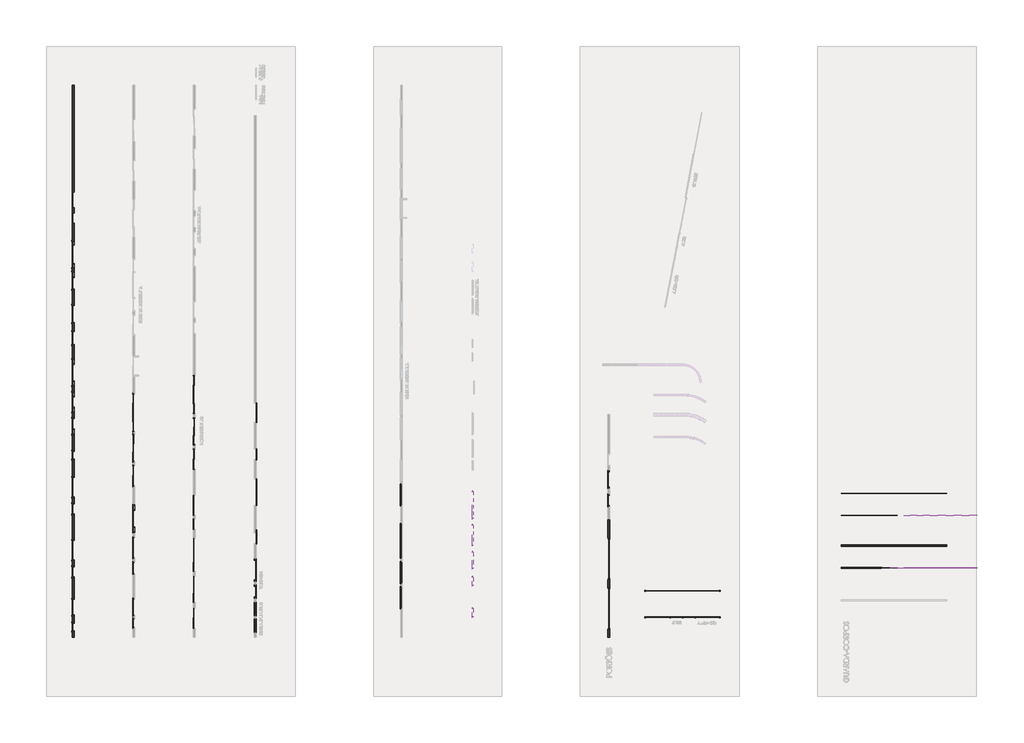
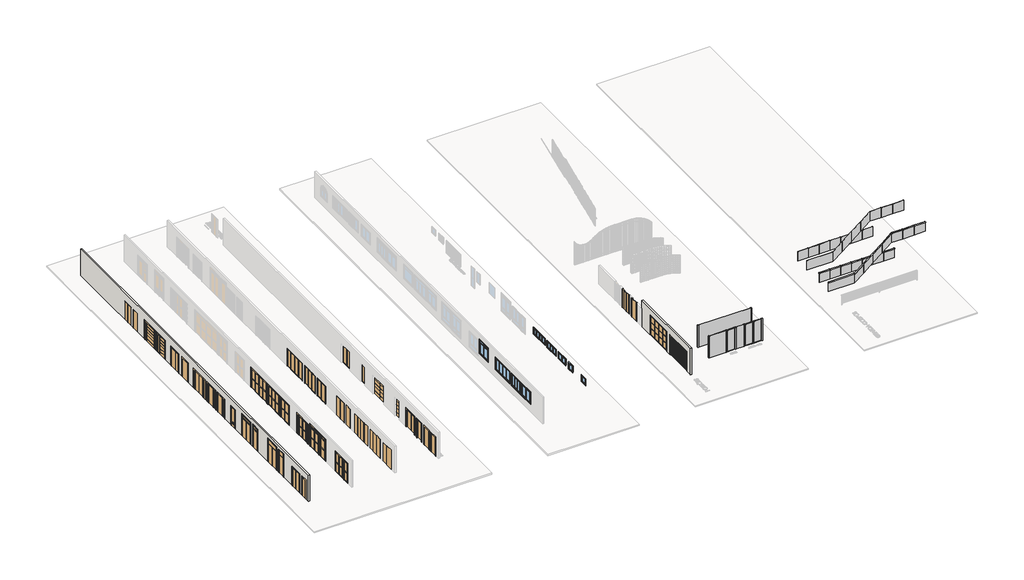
# One storey, part 1 of 15: 44 doors, 35 plates, 22 members, 9 windows, 2 walls.
"""IFC4 building model written with IfcOpenShell, lengths in millimetres."""

from ifc_helpers import new_model, si_unit, frame, origin, place, context, project, spatial, polyline, outline, extrude, faceted_brep, transform, mapped, element, save
from components import door_8916e6e4, door_dd1b2f25, door_b5212ac3, door_31_5_80_31_5_x_210_066ea2de, door_100_x_210_65537fdf, door_120_x_210_413f200e, door_120_x_210_62fe1f09, door_120_x_210_efae11d8, door_120_x_220_21e3b68e, door_130_x_210_5c5bd6b0, door_150_x_200_1a9ccb07, door_150_x_210_92496eac, door_150_x_210_59f08e28, door_150_x_220_6ddc8072, door_150_x_210_0a50c08e, door_150_x_210_8e785332, door_150_x_210_260_12780f67, door_150_x_220_60480f0c, door_150_x_220_4ef38597, door_200_x_200_0e187a38, door_200_x_220_291763b9, door_200_x_210_965aee03, door_200_x_220_3ca59432, door_200_x_220_cca4099e, door_280_x_200_146a4e26, door_280_x_220_3c5e79f3, door_300_x_220_c7f21ab3, door_300_x_220_fe7283cd, door_60_x_210_6dff45ca, door_60_x_210_264a725e, door_60_x_220_c5cafb2c, door_80_120_x_210_19d05934, door_80_x_210_14041a6c, door_80_x_210_25f8f10c, door_80_x_210_45d6cdc8, door_80_x_210_69a38d2f, door_80_x_210_260_7b3409cb, door_80_x_220_439348a2, door_80_x_210_7cd56997, door_80_x_210_30b18d09, door_80_x_210_166cd71a, door_80_x_220_cc33ead6, door_90_130_x_210_82204c14, door_90_x_210_280f9766, circular_mullion_50mm_radius_58e05b09, circular_mullion_50mm_radius_f5e74aa9, circular_mullion_50mm_radius_b58c95c8, circular_mullion_50mm_radius_fc560f1a, circular_mullion_50mm_radius_da544194, circular_mullion_50mm_radius_106980f6, circular_mullion_50mm_radius_fce2640b, rectangular_mullion_montante_muro_de_vidro_10_x_10_cm_6b0fb468, rectangular_mullion_montante_muro_de_vidro_10_x_10_cm_6746ef01, plate_01_36f4f220, plate_01_4595e1b0, system_panel_1b4e1b44, system_panel_bc985cdc, system_panel_a2d2ccff, system_panel_3126d55a, system_panel_bab866c8, system_panel_7f4bd75d, system_panel_ac3673e6, system_panel_374318f6, system_panel_muro_de_vidro_16_mm_4851632e, system_panel_muro_de_vidro_16_mm_785279bf, system_panel_muro_de_vidro_16_mm_a46e8366, window_120_x_60_a7597752, window_120_x_60_1fe928af, window_150_x_120_82909caf, window_150_x_120_26587e5e, window_150_x_120_0872acb2, window_200_x_60_8f1f4637, window_250_x_120_b225a731, window_60_x_60_208c0b0b

model = new_model("IFC4")

# Units and contexts
model_context = context("Model", 3, world=origin())
ifc_project = project(units=[si_unit("LENGTHUNIT", "METRE", prefix="MILLI")], contexts=[model_context])

# Site, building, storey
site = spatial("IfcSite", under=ifc_project)
building = spatial("IfcBuilding", under=site)
storey = spatial("IfcBuildingStorey", under=building, Name="TÉRREO", Elevation=0.0)

# Doors
placement = place(None, origin())
door_shape = door_8916e6e4(model_context)
element("IfcDoor", 1, ObjectType="PORTA DE ABRIR - 2 FOLHAS + LUZES LATERAIS - 2 FOLHAS : (31,5) 130 (31,5) X 210", at=placement, inside=storey, context=model_context, shape_type="MappedRepresentation", body=[
    mapped(door_shape, transform((-783.6838948, 7848.2494443, 0.0), x_axis=(0.0, -1.0, 0.0), y_axis=(1.0, 0.0, 0.0), z_axis=(0.0, 0.0, 1.0))),
])
door_2_shape = door_dd1b2f25(model_context)
element("IfcDoor", 2, ObjectType="PORTA PIVOTANTE - 1 FOLHA + LUZES LATERAIS - 2 FOLHAS : (21,5) 150 (21,5) X 210", at=placement, inside=storey, context=model_context, shape_type="MappedRepresentation", body=[
    mapped(door_2_shape, transform((-783.6838948, 16838.5763628, 0.0), x_axis=(0.0, 1.0, 0.0), y_axis=(-1.0, 0.0, 0.0), z_axis=(0.0, 0.0, 1.0))),
])
door_3_shape = door_b5212ac3(model_context)
element("IfcDoor", 3, ObjectType="PORTA DE VIDRO COM ESQUADRIA DE ABRIR - 2 FOLHAS + LUZES LATERAIS - 2 FOLHAS : (31,5) 130 (31,5) X 220", at=placement, inside=storey, context=model_context, shape_type="MappedRepresentation", body=[
    mapped(door_3_shape, transform((3853.8161052, -3314.9603765, 0.0), x_axis=(0.0, -1.0, 0.0), y_axis=(1.0, 0.0, 0.0), z_axis=(0.0, 0.0, 1.0))),
])
door_31_5_80_31_5_x_210_shape = door_31_5_80_31_5_x_210_066ea2de(model_context)
element("IfcDoor", 4, ObjectType="PORTA DE ABRIR - 1 FOLHA + LUZES LATERAIS - 2 FOLHAS : (31,5) 80 (31,5) X 210", at=placement, inside=storey, context=model_context, shape_type="MappedRepresentation", body=[
    mapped(door_31_5_80_31_5_x_210_shape, transform((-783.6838948, 5598.2494443, 0.0), x_axis=(0.0, -1.0, 0.0), y_axis=(1.0, 0.0, 0.0), z_axis=(0.0, 0.0, 1.0))),
])
door_100_x_210_shape = door_100_x_210_65537fdf(model_context)
element("IfcDoor", 5, ObjectType="PORTA PIVOTANTE - 1 FOLHA : 100 x 210", at=placement, inside=storey, context=model_context, shape_type="MappedRepresentation", body=[
    mapped(door_100_x_210_shape, transform((-783.6838948, 10383.5763628, 0.0), x_axis=(0.0, 1.0, 0.0), y_axis=(-1.0, 0.0, 0.0), z_axis=(0.0, 0.0, 1.0))),
])
door_120_x_210_shape = door_120_x_210_413f200e(model_context)
element("IfcDoor", 6, ObjectType="PORTA PIVOTANTE SEM BATENTES - 2 FOLHAS : 120 x 210", at=placement, inside=storey, context=model_context, shape_type="MappedRepresentation", body=[
    mapped(door_120_x_210_shape, transform((-783.6838948, 21223.5763628, 0.0), x_axis=(0.0, -1.0, 0.0), y_axis=(1.0, 0.0, 0.0), z_axis=(0.0, 0.0, 1.0))),
])
door_120_x_210_2_shape = door_120_x_210_62fe1f09(model_context)
element("IfcDoor", 7, ObjectType="PORTÃO DE ABRIR - 2 FOLHAS : 120 x 210", at=placement, inside=storey, context=model_context, shape_type="MappedRepresentation", body=[
    mapped(door_120_x_210_2_shape, transform((40169.4407312, -283.3147038, 0.0), x_axis=(0.0, -1.0, 0.0), y_axis=(1.0, 0.0, 0.0), z_axis=(0.0, 0.0, 1.0))),
])
door_120_x_210_3_shape = door_120_x_210_efae11d8(model_context)
element("IfcDoor", 8, ObjectType="PORTA DE ABRIR - 2 FOLHAS : 120 x 210", at=placement, inside=storey, context=model_context, shape_type="MappedRepresentation", body=[
    mapped(door_120_x_210_3_shape, transform((-783.6838948, -10059.9603765, 0.0), x_axis=(0.0, -1.0, 0.0), y_axis=(1.0, 0.0, 0.0), z_axis=(0.0, 0.0, 1.0))),
])
door_120_x_220_shape = door_120_x_220_21e3b68e(model_context)
element("IfcDoor", 9, ObjectType="PORTA DE VIDRO COM ESQUADRIA DE ABRIR - 2 FOLHAS : 120 x 220", at=placement, inside=storey, context=model_context, shape_type="MappedRepresentation", body=[
    mapped(door_120_x_220_shape, transform((3853.8161052, -10174.9603765, 0.0), x_axis=(0.0, -1.0, 0.0), y_axis=(1.0, 0.0, 0.0), z_axis=(0.0, 0.0, 1.0))),
])
door_130_x_210_shape = door_130_x_210_5c5bd6b0(model_context)
element("IfcDoor", 10, ObjectType="PORTA PIVOTANTE - 2 FOLHAS : 130 x 210", at=placement, inside=storey, context=model_context, shape_type="MappedRepresentation", body=[
    mapped(door_130_x_210_shape, transform((-783.6838948, 12243.5763628, 0.0), x_axis=(0.0, 1.0, 0.0), y_axis=(-1.0, 0.0, 0.0), z_axis=(0.0, 0.0, 1.0))),
])
door_150_x_200_shape = door_150_x_200_1a9ccb07(model_context)
element("IfcDoor", 11, ObjectType="PORTA TELADA COM ESQUADRIA DE CORRER - 2 FOLHAS : 150 X 200", at=placement, inside=storey, context=model_context, shape_type="MappedRepresentation", body=[
    mapped(door_150_x_200_shape, transform((8489.3202338, 1278.8167935, 0.0), x_axis=(0.0, -1.0, 0.0), y_axis=(1.0, 0.0, 0.0), z_axis=(0.0, 0.0, 1.0))),
])
door_150_x_210_shape = door_150_x_210_92496eac(model_context)
element("IfcDoor", 12, ObjectType="PORTA DE ABRIR - 2 FOLHAS + BANDEIRA FIXA COM VIDRO - 1 FOLHA : 150 X 210", at=placement, inside=storey, context=model_context, shape_type="MappedRepresentation", body=[
    mapped(door_150_x_210_shape, transform((-783.6838948, -867.3574639, 0.0), x_axis=(0.0, -1.0, 0.0), y_axis=(1.0, 0.0, 0.0), z_axis=(0.0, 0.0, 1.0))),
])
door_150_x_210_2_shape = door_150_x_210_59f08e28(model_context)
element("IfcDoor", 13, ObjectType="PORTA DE VIDRO COM ESQUADRIA DE CORRER - 2 FOLHAS : 150 X 210", at=placement, inside=storey, context=model_context, shape_type="MappedRepresentation", body=[
    mapped(door_150_x_210_2_shape, transform((3851.8202338, 3.2004974, 0.0), x_axis=(0.0, -1.0, 0.0), y_axis=(1.0, 0.0, 0.0), z_axis=(0.0, 0.0, 1.0))),
])
door_150_x_220_shape = door_150_x_220_6ddc8072(model_context)
element("IfcDoor", 14, ObjectType="PORTA DE VIDRO COM ESQUADRIA DE ABRIR - 2 FOLHAS + BANDEIRA FIXA - 1 FOLHA : 150 X 220", at=placement, inside=storey, context=model_context, shape_type="MappedRepresentation", body=[
    mapped(door_150_x_220_shape, transform((3853.8161052, -5539.9603765, 0.0), x_axis=(0.0, -1.0, 0.0), y_axis=(1.0, 0.0, 0.0), z_axis=(0.0, 0.0, 1.0))),
])
door_150_x_210_3_shape = door_150_x_210_0a50c08e(model_context)
element("IfcDoor", 15, ObjectType="PORTA VAI-E-VEM - 2 FOLHAS : 150 x 210", at=placement, inside=storey, context=model_context, shape_type="MappedRepresentation", body=[
    mapped(door_150_x_210_3_shape, transform((13118.1937885, -7364.9603765, 0.0), x_axis=(0.0, 1.0, 0.0), y_axis=(-1.0, 0.0, 0.0), z_axis=(0.0, 0.0, 1.0))),
])
door_150_x_210_4_shape = door_150_x_210_8e785332(model_context)
element("IfcDoor", 16, ObjectType="PORTA DE VIDRO COM ESQUADRIA DE CORRER EM TRILHO LATERAL - 2 FOLHAS : 150 x 210", at=placement, inside=storey, context=model_context, shape_type="MappedRepresentation", body=[
    mapped(door_150_x_210_4_shape, transform((13128.8161052, 4770.0396235, 0.0), x_axis=(0.0, 1.0, 0.0), y_axis=(-1.0, 0.0, 0.0), z_axis=(0.0, 0.0, 1.0))),
])
door_150_x_210_260_shape = door_150_x_210_260_12780f67(model_context)
element("IfcDoor", 17, ObjectType="PORTA DE ABRIR - 2 FOLHAS + BANDEIRA FIXA - 1 FOLHA : 150 x 210 (260)", at=placement, inside=storey, context=model_context, shape_type="MappedRepresentation", body=[
    mapped(door_150_x_210_260_shape, transform((-783.6838948, -5682.4181109, 0.0), x_axis=(0.0, -1.0, 0.0), y_axis=(1.0, 0.0, 0.0), z_axis=(0.0, 0.0, 1.0))),
])
door_150_x_220_2_shape = door_150_x_220_60480f0c(model_context)
element("IfcDoor", 18, ObjectType="PORTA DE VIDRO PIVOTANTE - 2 FOLHAS : 150 x 220", at=placement, inside=storey, context=model_context, shape_type="MappedRepresentation", body=[
    mapped(door_150_x_220_2_shape, transform((8485.6585974, -2409.9603765, 0.0), x_axis=(0.0, 1.0, 0.0), y_axis=(-1.0, 0.0, 0.0), z_axis=(0.0, 0.0, 1.0))),
])
door_150_x_220_3_shape = door_150_x_220_4ef38597(model_context)
element("IfcDoor", 19, ObjectType="PORTA DE VIDRO DE CORRER - 2 FOLHAS : 150 x 220", at=placement, inside=storey, context=model_context, shape_type="MappedRepresentation", body=[
    mapped(door_150_x_220_3_shape, transform((8485.6585974, -10889.9603765, 0.0), x_axis=(0.0, -1.0, 0.0), y_axis=(1.0, 0.0, 0.0), z_axis=(0.0, 0.0, 1.0))),
])
door_200_x_200_shape = door_200_x_200_0e187a38(model_context)
element("IfcDoor", 20, ObjectType="PORTA TELADA COM ESQUADRIA DE CORRER - 3 FOLHAS : 200 X 200", at=placement, inside=storey, context=model_context, shape_type="MappedRepresentation", body=[
    mapped(door_200_x_200_shape, transform((8491.3161052, 3343.5378035, 0.0), x_axis=(0.0, -1.0, 0.0), y_axis=(1.0, 0.0, 0.0), z_axis=(0.0, 0.0, 1.0))),
])
door_200_x_220_shape = door_200_x_220_291763b9(model_context)
element("IfcDoor", 21, ObjectType="PORTA DE VIDRO COM ESQUADRIA DE CORRER - 3 FOLHAS : 200 X 220", at=placement, inside=storey, context=model_context, shape_type="MappedRepresentation", body=[
    mapped(door_200_x_220_shape, transform((3853.8161052, 2077.9215075, 0.0), x_axis=(0.0, -1.0, 0.0), y_axis=(1.0, 0.0, 0.0), z_axis=(0.0, 0.0, 1.0))),
])
door_200_x_210_shape = door_200_x_210_965aee03(model_context)
element("IfcDoor", 22, ObjectType="PORTA DE CORRER EM TRILHO LATERAL - 2 FOLHAS : 200 x 210", at=placement, inside=storey, context=model_context, shape_type="MappedRepresentation", body=[
    mapped(door_200_x_210_shape, transform((13128.8161052, -1319.9603765, 0.0), x_axis=(0.0, 1.0, 0.0), y_axis=(-1.0, 0.0, 0.0), z_axis=(0.0, 0.0, 1.0))),
])
door_200_x_220_2_shape = door_200_x_220_3ca59432(model_context)
element("IfcDoor", 23, ObjectType="PORTA DE VIDRO DE CORRER - 3 FOLHAS : 200 x 220", at=placement, inside=storey, context=model_context, shape_type="MappedRepresentation", body=[
    mapped(door_200_x_220_2_shape, transform((8485.6585974, -8659.9603765, 0.0), x_axis=(0.0, -1.0, 0.0), y_axis=(1.0, 0.0, 0.0), z_axis=(0.0, 0.0, 1.0))),
])
door_200_x_220_3_shape = door_200_x_220_cca4099e(model_context)
element("IfcDoor", 24, ObjectType="PORTA DE VIDRO DE CORRER - 4 FOLHAS : 200 x 220", at=placement, inside=storey, context=model_context, shape_type="MappedRepresentation", body=[
    mapped(door_200_x_220_3_shape, transform((8485.6585974, -6009.9603765, 0.0), x_axis=(0.0, -1.0, 0.0), y_axis=(1.0, 0.0, 0.0), z_axis=(0.0, 0.0, 1.0))),
])
door_280_x_200_shape = door_280_x_200_146a4e26(model_context)
element("IfcDoor", 25, ObjectType="PORTA TELADA COM ESQUADRIA DE CORRER - 4 FOLHAS : 280 x 200", at=placement, inside=storey, context=model_context, shape_type="MappedRepresentation", body=[
    mapped(door_280_x_200_shape, transform((8483.3478121, 6300.6559196, 0.0), x_axis=(0.0, -1.0, 0.0), y_axis=(1.0, 0.0, 0.0), z_axis=(0.0, 0.0, 1.0))),
])
door_280_x_220_shape = door_280_x_220_3c5e79f3(model_context)
element("IfcDoor", 26, ObjectType="PORTA DE VIDRO COM ESQUADRIA DE CORRER - 4 FOLHAS : 280 x 220", at=placement, inside=storey, context=model_context, shape_type="MappedRepresentation", body=[
    mapped(door_280_x_220_shape, transform((3845.8478121, 4915.0396235, 0.0), x_axis=(0.0, -1.0, 0.0), y_axis=(1.0, 0.0, 0.0), z_axis=(0.0, 0.0, 1.0))),
])
door_300_x_220_shape = door_300_x_220_c7f21ab3(model_context)
element("IfcDoor", 27, ObjectType="PORTÃO BASCULANTE - 1 FOLHA : 300 x 220", at=placement, inside=storey, context=model_context, shape_type="MappedRepresentation", body=[
    mapped(door_300_x_220_shape, transform((40169.4407312, -6339.9603765, 0.0), x_axis=(0.0, -1.0, 0.0), y_axis=(1.0, 0.0, 0.0), z_axis=(0.0, 0.0, 1.0))),
])
door_300_x_220_2_shape = door_300_x_220_fe7283cd(model_context)
element("IfcDoor", 28, ObjectType="PORTÃO BASCULANTE COM BARRAS VERTICAIS : 300 x 220", at=placement, inside=storey, context=model_context, shape_type="MappedRepresentation", body=[
    mapped(door_300_x_220_2_shape, transform((40169.4407312, -10139.9603765, 0.0), x_axis=(0.0, -1.0, 0.0), y_axis=(1.0, 0.0, 0.0), z_axis=(0.0, 0.0, 1.0))),
])
door_60_x_210_shape = door_60_x_210_6dff45ca(model_context)
element("IfcDoor", 29, ObjectType="PORTA DE ABRIR - 1 FOLHA : 60 x 210", at=placement, inside=storey, context=model_context, shape_type="MappedRepresentation", body=[
    mapped(door_60_x_210_shape, transform((-783.6838948, -11539.9603765, 0.0), x_axis=(0.0, -1.0, 0.0), y_axis=(1.0, 0.0, 0.0), z_axis=(0.0, 0.0, 1.0))),
])
door_60_x_210_2_shape = door_60_x_210_264a725e(model_context)
element("IfcDoor", 30, ObjectType="PORTA DE ABRIR COM GRELHA - 1 FOLHA : 60 x 210", at=placement, inside=storey, context=model_context, shape_type="MappedRepresentation", body=[
    mapped(door_60_x_210_2_shape, transform((-783.6838948, 1603.5763628, 0.0), x_axis=(0.0, -1.0, 0.0), y_axis=(1.0, 0.0, 0.0), z_axis=(0.0, 0.0, 1.0))),
])
door_60_x_220_shape = door_60_x_220_c5cafb2c(model_context)
element("IfcDoor", 31, ObjectType="PORTA DE VIDRO COM ESQUADRIA DE ABRIR - 1 FOLHA : 60 x 220", at=placement, inside=storey, context=model_context, shape_type="MappedRepresentation", body=[
    mapped(door_60_x_220_shape, transform((3853.8161052, -11289.9603765, 0.0), x_axis=(0.0, -1.0, 0.0), y_axis=(1.0, 0.0, 0.0), z_axis=(0.0, 0.0, 1.0))),
])
door_80_120_x_210_shape = door_80_120_x_210_19d05934(model_context)
element("IfcDoor", 32, ObjectType="PORTA DE ABRIR - 1 FOLHA + LUZ LATERAL - 1 FOLHA : 80 (120) X 210", at=placement, inside=storey, context=model_context, shape_type="MappedRepresentation", body=[
    mapped(door_80_120_x_210_shape, transform((-783.6838948, 3703.2494443, 0.0), x_axis=(0.0, -1.0, 0.0), y_axis=(1.0, 0.0, 0.0), z_axis=(0.0, 0.0, 1.0))),
])
door_80_x_210_shape = door_80_x_210_14041a6c(model_context)
element("IfcDoor", 33, ObjectType="PORTA DE ABRIR DUPLA - 2 FOLHAS : 80 X 210", at=placement, inside=storey, context=model_context, shape_type="MappedRepresentation", body=[
    mapped(door_80_x_210_shape, transform((13128.8161052, -11599.9603765, 0.0), x_axis=(0.0, 1.0, 0.0), y_axis=(-1.0, 0.0, 0.0), z_axis=(0.0, 0.0, 1.0))),
])
door_80_x_210_2_shape = door_80_x_210_25f8f10c(model_context)
element("IfcDoor", 34, ObjectType="PORTA DE ABRIR DUPLA COM SENTIDOS OPOSTOS- 2 FOLHAS : 80 X 210", at=placement, inside=storey, context=model_context, shape_type="MappedRepresentation", body=[
    mapped(door_80_x_210_2_shape, transform((13128.8161052, -10179.9603765, 0.0), x_axis=(0.0, -1.0, 0.0), y_axis=(1.0, 0.0, 0.0), z_axis=(0.0, 0.0, 1.0))),
])
door_80_x_210_3_shape = door_80_x_210_45d6cdc8(model_context)
element("IfcDoor", 35, ObjectType="PORTÃO DE ABRIR - 1 FOLHA : 80 X 210", at=placement, inside=storey, context=model_context, shape_type="MappedRepresentation", body=[
    mapped(door_80_x_210_3_shape, transform((40169.4407312, -1893.3147038, 0.0), x_axis=(0.0, -1.0, 0.0), y_axis=(1.0, 0.0, 0.0), z_axis=(0.0, 0.0, 1.0))),
])
door_80_x_210_4_shape = door_80_x_210_69a38d2f(model_context)
element("IfcDoor", 36, ObjectType="PORTA DE ABRIR - 1 FOLHA + BANDEIRA FIXA COM VIDRO - 1 FOLHA : 80 X 210", at=placement, inside=storey, context=model_context, shape_type="MappedRepresentation", body=[
    mapped(door_80_x_210_4_shape, transform((-783.6838948, -2517.3574639, 0.0), x_axis=(0.0, -1.0, 0.0), y_axis=(1.0, 0.0, 0.0), z_axis=(0.0, 0.0, 1.0))),
])
door_80_x_210_260_shape = door_80_x_210_260_7b3409cb(model_context)
element("IfcDoor", 37, ObjectType="PORTA DE ABRIR - 1 FOLHA + BANDEIRA FIXA - 1 FOLHA : 80 X 210 (260)", at=placement, inside=storey, context=model_context, shape_type="MappedRepresentation", body=[
    mapped(door_80_x_210_260_shape, transform((-783.6838948, -7332.4181109, 0.0), x_axis=(0.0, -1.0, 0.0), y_axis=(1.0, 0.0, 0.0), z_axis=(0.0, 0.0, 1.0))),
])
door_80_x_220_shape = door_80_x_220_439348a2(model_context)
element("IfcDoor", 38, ObjectType="PORTA DE VIDRO COM ESQUADRIA DE ABRIR - 1 FOLHA + BANDEIRA FIXA - 1 FOLHA : 80 X 220", at=placement, inside=storey, context=model_context, shape_type="MappedRepresentation", body=[
    mapped(door_80_x_220_shape, transform((3853.8161052, -7089.9603765, 0.0), x_axis=(0.0, -1.0, 0.0), y_axis=(1.0, 0.0, 0.0), z_axis=(0.0, 0.0, 1.0))),
])
door_80_x_210_5_shape = door_80_x_210_7cd56997(model_context)
element("IfcDoor", 39, ObjectType="PORTA VAI-E-VEM - 1 FOLHA : 80 x 210", at=placement, inside=storey, context=model_context, shape_type="MappedRepresentation", body=[
    mapped(door_80_x_210_5_shape, transform((13122.2983028, -8949.9603765, 0.0), x_axis=(0.0, 1.0, 0.0), y_axis=(-1.0, 0.0, 0.0), z_axis=(0.0, 0.0, 1.0))),
])
door_80_x_210_6_shape = door_80_x_210_30b18d09(model_context)
element("IfcDoor", 40, ObjectType="PORTA DE CORRER EM TRILHO LATERAL - 1 FOLHA : 80 x 210", at=placement, inside=storey, context=model_context, shape_type="MappedRepresentation", body=[
    mapped(door_80_x_210_6_shape, transform((13128.8161052, -4819.9603765, 0.0), x_axis=(0.0, -1.0, 0.0), y_axis=(1.0, 0.0, 0.0), z_axis=(0.0, 0.0, 1.0))),
])
door_80_x_210_7_shape = door_80_x_210_166cd71a(model_context)
element("IfcDoor", 41, ObjectType="PORTA DE VIDRO COM ESQUADRIA DE CORRER EM TRILHO LATERAL - 1 FOLHA : 80 x 210", at=placement, inside=storey, context=model_context, shape_type="MappedRepresentation", body=[
    mapped(door_80_x_210_7_shape, transform((13128.8161052, 1637.9958861, 0.0), x_axis=(0.0, -1.0, 0.0), y_axis=(1.0, 0.0, 0.0), z_axis=(0.0, 0.0, 1.0))),
])
door_80_x_220_2_shape = door_80_x_220_cc33ead6(model_context)
element("IfcDoor", 42, ObjectType="PORTA DE VIDRO PIVOTANTE - 1 FOLHA : 80 x 220", at=placement, inside=storey, context=model_context, shape_type="MappedRepresentation", body=[
    mapped(door_80_x_220_2_shape, transform((8485.6585974, -3819.9603765, 0.0), x_axis=(0.0, 1.0, 0.0), y_axis=(-1.0, 0.0, 0.0), z_axis=(0.0, 0.0, 1.0))),
])
door_90_130_x_210_shape = door_90_130_x_210_82204c14(model_context)
element("IfcDoor", 43, ObjectType="PORTA PIVOTANTE - 1 FOLHA + LUZ LATERAL - 1 FOLHA : 90 (130) X 210", at=placement, inside=storey, context=model_context, shape_type="MappedRepresentation", body=[
    mapped(door_90_130_x_210_shape, transform((-783.6838948, 14883.5763628, 0.0), x_axis=(0.0, 1.0, 0.0), y_axis=(-1.0, 0.0, 0.0), z_axis=(0.0, 0.0, 1.0))),
])
door_90_x_210_shape = door_90_x_210_280f9766(model_context)
element("IfcDoor", 44, ObjectType="PORTA PIVOTANTE SEM BATENTES - 1 FOLHA : 90 x 210", at=placement, inside=storey, context=model_context, shape_type="MappedRepresentation", body=[
    mapped(door_90_x_210_shape, transform((-783.6838948, 19523.5763628, 0.0), x_axis=(0.0, 1.0, 0.0), y_axis=(-1.0, 0.0, 0.0), z_axis=(0.0, 0.0, 1.0))),
])

# Members
circular_mullion_50mm_radius_shape = circular_mullion_50mm_radius_58e05b09(model_context)
element("IfcMember", 45, ObjectType="Circular Mullion : 50mm Radius", at=placement, inside=storey, context=model_context, shape_type="MappedRepresentation", body=[
    mapped(circular_mullion_50mm_radius_shape, transform((66001.0243729, -5402.2460768, 1100.0), x_axis=(0.0, 0.0, 1.0), y_axis=(0.0, -1.0, 0.0), z_axis=(1.0, 0.0, 0.0))),
])
element("IfcMember", 46, ObjectType="Circular Mullion : 50mm Radius", at=placement, inside=storey, context=model_context, shape_type="MappedRepresentation", body=[
    mapped(circular_mullion_50mm_radius_shape, transform((59086.7386586, -5402.2460768, 1100.0), x_axis=(0.0, 0.0, 1.0), y_axis=(0.0, -1.0, 0.0), z_axis=(1.0, 0.0, 0.0))),
])
element("IfcMember", 47, ObjectType="Circular Mullion : 50mm Radius", at=placement, inside=storey, context=model_context, shape_type="MappedRepresentation", body=[
    mapped(circular_mullion_50mm_radius_shape, transform((60239.1196109, -5402.2460768, 1100.0), x_axis=(0.0, 0.0, 1.0), y_axis=(0.0, -1.0, 0.0), z_axis=(1.0, 0.0, 0.0))),
])
element("IfcMember", 48, ObjectType="Circular Mullion : 50mm Radius", at=placement, inside=storey, context=model_context, shape_type="MappedRepresentation", body=[
    mapped(circular_mullion_50mm_radius_shape, transform((61391.5005633, -5402.2460768, 1100.0), x_axis=(0.0, 0.0, 1.0), y_axis=(0.0, -1.0, 0.0), z_axis=(1.0, 0.0, 0.0))),
])
element("IfcMember", 49, ObjectType="Circular Mullion : 50mm Radius", at=placement, inside=storey, context=model_context, shape_type="MappedRepresentation", body=[
    mapped(circular_mullion_50mm_radius_shape, transform((62543.8815157, -5402.2460768, 1100.0), x_axis=(0.0, 0.0, 1.0), y_axis=(0.0, -1.0, 0.0), z_axis=(1.0, 0.0, 0.0))),
])
element("IfcMember", 50, ObjectType="Circular Mullion : 50mm Radius", at=placement, inside=storey, context=model_context, shape_type="MappedRepresentation", body=[
    mapped(circular_mullion_50mm_radius_shape, transform((63696.2624681, -5402.2460768, 1100.0), x_axis=(0.0, 0.0, 1.0), y_axis=(0.0, -1.0, 0.0), z_axis=(1.0, 0.0, 0.0))),
])
element("IfcMember", 51, ObjectType="Circular Mullion : 50mm Radius", at=placement, inside=storey, context=model_context, shape_type="MappedRepresentation", body=[
    mapped(circular_mullion_50mm_radius_shape, transform((64848.6434205, -5402.2460768, 1100.0), x_axis=(0.0, 0.0, 1.0), y_axis=(0.0, -1.0, 0.0), z_axis=(1.0, 0.0, 0.0))),
])
circular_mullion_50mm_radius_2_shape = circular_mullion_50mm_radius_f5e74aa9(model_context)
element("IfcMember", 52, ObjectType="Circular Mullion : 50mm Radius", at=placement, inside=storey, context=model_context, shape_type="MappedRepresentation", body=[
    mapped(circular_mullion_50mm_radius_2_shape, transform((62710.1931566, -7102.2460768, 2700.0), x_axis=(-0.6293203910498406, 0.0, 0.7771459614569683), y_axis=(0.0, -1.0, 0.0), z_axis=(0.7771459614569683, 0.0, 0.6293203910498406))),
])
element("IfcMember", 53, ObjectType="Circular Mullion : 50mm Radius", at=placement, inside=storey, context=model_context, shape_type="MappedRepresentation", body=[
    mapped(circular_mullion_50mm_radius_2_shape, transform((63698.1108819, -7102.2460768, 3500.0), x_axis=(-0.6293203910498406, 0.0, 0.7771459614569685), y_axis=(0.0, -1.0, 0.0), z_axis=(0.7771459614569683, 0.0, 0.6293203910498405))),
])
circular_mullion_50mm_radius_3_shape = circular_mullion_50mm_radius_b58c95c8(model_context)
element("IfcMember", 54, ObjectType="Circular Mullion : 50mm Radius", at=placement, inside=storey, context=model_context, shape_type="MappedRepresentation", body=[
    mapped(circular_mullion_50mm_radius_3_shape, transform((60734.3577062, -7102.2460768, 1100.0), x_axis=(0.0, 0.0, 1.0), y_axis=(0.0, -1.0, 0.0), z_axis=(1.0, 0.0, 0.0))),
])
circular_mullion_50mm_radius_4_shape = circular_mullion_50mm_radius_fc560f1a(model_context)
element("IfcMember", 55, ObjectType="Circular Mullion : 50mm Radius", at=placement, inside=storey, context=model_context, shape_type="MappedRepresentation", body=[
    mapped(circular_mullion_50mm_radius_4_shape, transform((61722.2754314, -7102.2460768, 1900.0), x_axis=(-0.6293203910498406, 0.0, 0.7771459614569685), y_axis=(0.0, -1.0, 0.0), z_axis=(0.7771459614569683, 0.0, 0.6293203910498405))),
])
circular_mullion_50mm_radius_5_shape = circular_mullion_50mm_radius_da544194(model_context)
element("IfcMember", 56, ObjectType="Circular Mullion : 50mm Radius", at=placement, inside=storey, context=model_context, shape_type="MappedRepresentation", body=[
    mapped(circular_mullion_50mm_radius_5_shape, transform((64686.0286071, -7102.2460768, 4300.0), x_axis=(-0.6293203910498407, 0.0, 0.7771459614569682), y_axis=(0.0, -1.0, 0.0), z_axis=(0.7771459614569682, 0.0, 0.6293203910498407))),
])
circular_mullion_50mm_radius_6_shape = circular_mullion_50mm_radius_106980f6(model_context)
element("IfcMember", 57, ObjectType="Circular Mullion : 50mm Radius", at=placement, inside=storey, context=model_context, shape_type="MappedRepresentation", body=[
    mapped(circular_mullion_50mm_radius_6_shape, transform((65902.1383068, -7102.2460768, 4300.0), x_axis=(0.0, 0.0, 1.0), y_axis=(0.0, -1.0, 0.0), z_axis=(1.0, 0.0, 0.0))),
])
circular_mullion_50mm_radius_7_shape = circular_mullion_50mm_radius_fce2640b(model_context)
element("IfcMember", 58, ObjectType="Circular Mullion : 50mm Radius", at=placement, inside=storey, context=model_context, shape_type="MappedRepresentation", body=[
    mapped(circular_mullion_50mm_radius_7_shape, transform((68334.3577062, -7102.2460768, 4300.0), x_axis=(0.0, 0.0, 1.0), y_axis=(0.0, -1.0, 0.0), z_axis=(1.0, 0.0, 0.0))),
])
element("IfcMember", 59, ObjectType="Circular Mullion : 50mm Radius", at=placement, inside=storey, context=model_context, shape_type="MappedRepresentation", body=[
    mapped(circular_mullion_50mm_radius_7_shape, transform((67118.2480065, -7102.2460768, 4300.0), x_axis=(0.0, 0.0, 1.0), y_axis=(0.0, -1.0, 0.0), z_axis=(1.0, 0.0, 0.0))),
])
rectangular_mullion_montante_muro_de_vidro_10_x_10_cm_shape = rectangular_mullion_montante_muro_de_vidro_10_x_10_cm_6b0fb468(model_context)
element("IfcMember", 60, ObjectType="Rectangular Mullion : MONTANTE MURO DE VIDRO 10 x 10 cm", at=placement, inside=storey, context=model_context, shape_type="MappedRepresentation", body=[
    mapped(rectangular_mullion_montante_muro_de_vidro_10_x_10_cm_shape, transform((48688.7644841, -8874.9449399, 0.0), x_axis=(1.0, 0.0, 0.0), y_axis=(0.0, -1.0, 0.0), z_axis=(0.0, 0.0, -1.0))),
])
element("IfcMember", 61, ObjectType="Rectangular Mullion : MONTANTE MURO DE VIDRO 10 x 10 cm", at=placement, inside=storey, context=model_context, shape_type="MappedRepresentation", body=[
    mapped(rectangular_mullion_montante_muro_de_vidro_10_x_10_cm_shape, transform((48688.7644841, -10874.9449399, 0.0), x_axis=(1.0, 0.0, 0.0), y_axis=(0.0, -1.0, 0.0), z_axis=(0.0, 0.0, -1.0))),
])
element("IfcMember", 62, ObjectType="Rectangular Mullion : MONTANTE MURO DE VIDRO 10 x 10 cm", at=placement, inside=storey, context=model_context, shape_type="MappedRepresentation", body=[
    mapped(rectangular_mullion_montante_muro_de_vidro_10_x_10_cm_shape, transform((42914.436348, -8874.9449399, 2500.0), x_axis=(-1.0, 0.0, 0.0), y_axis=(0.0, -1.0, 0.0), z_axis=(0.0, 0.0, 1.0))),
])
element("IfcMember", 63, ObjectType="Rectangular Mullion : MONTANTE MURO DE VIDRO 10 x 10 cm", at=placement, inside=storey, context=model_context, shape_type="MappedRepresentation", body=[
    mapped(rectangular_mullion_montante_muro_de_vidro_10_x_10_cm_shape, transform((42914.436348, -10874.9449399, 2500.0), x_axis=(-1.0, 0.0, 0.0), y_axis=(0.0, -1.0, 0.0), z_axis=(0.0, 0.0, 1.0))),
])
rectangular_mullion_montante_muro_de_vidro_10_x_10_cm_2_shape = rectangular_mullion_montante_muro_de_vidro_10_x_10_cm_6746ef01(model_context)
element("IfcMember", 64, ObjectType="Rectangular Mullion : MONTANTE MURO DE VIDRO 10 x 10 cm", at=placement, inside=storey, context=model_context, shape_type="MappedRepresentation", body=[
    mapped(rectangular_mullion_montante_muro_de_vidro_10_x_10_cm_2_shape, transform((44852.5457267, -10874.9449399, 0.0), x_axis=(1.0, 0.0, 0.0), y_axis=(0.0, -1.0, 0.0), z_axis=(0.0, 0.0, -1.0))),
])
element("IfcMember", 65, ObjectType="Rectangular Mullion : MONTANTE MURO DE VIDRO 10 x 10 cm", at=placement, inside=storey, context=model_context, shape_type="MappedRepresentation", body=[
    mapped(rectangular_mullion_montante_muro_de_vidro_10_x_10_cm_2_shape, transform((46750.6551054, -10874.9449399, 0.0), x_axis=(1.0, 0.0, 0.0), y_axis=(0.0, -1.0, 0.0), z_axis=(0.0, 0.0, -1.0))),
])
element("IfcMember", 66, ObjectType="Rectangular Mullion : MONTANTE MURO DE VIDRO 10 x 10 cm", at=placement, inside=storey, context=model_context, shape_type="MappedRepresentation", body=[
    mapped(rectangular_mullion_montante_muro_de_vidro_10_x_10_cm_2_shape, transform((45801.6004161, -10874.9449399, 0.0), x_axis=(1.0, 0.0, 0.0), y_axis=(0.0, -1.0, 0.0), z_axis=(0.0, 0.0, -1.0))),
])

# Plates
plate_01_shape = plate_01_36f4f220(model_context)
element("IfcPlate", 67, ObjectType="pnl - PORTÃO DE VIDRO DE ABRIR 01 - 1 FOLHA : 01", at=placement, inside=storey, context=model_context, shape_type="MappedRepresentation", body=[
    mapped(plate_01_shape, transform((45327.0730714, -10874.9449399, 0.0), x_axis=(-1.0, 0.0, 0.0), y_axis=(0.0, -1.0, 0.0), z_axis=(0.0, 0.0, 1.0))),
])
plate_01_2_shape = plate_01_4595e1b0(model_context)
element("IfcPlate", 68, ObjectType="pnl - PORTÃO DE VIDRO DE ABRIR 01 - 2 FOLHAS : 01", at=placement, inside=storey, context=model_context, shape_type="MappedRepresentation", body=[
    mapped(plate_01_2_shape, transform((47699.7097947, -10874.9449399, 0.0), x_axis=(1.0, 0.0, 0.0), y_axis=(0.0, 1.0, 0.0), z_axis=(0.0, 0.0, 1.0))),
])
system_panel_shape = system_panel_1b4e1b44(model_context)
element("IfcPlate", 69, ObjectType="System Panel : GUARDA-CORPO DE VIDRO TEMPERADO LAMINADO LISO 16 mm", at=placement, inside=storey, context=model_context, shape_type="MappedRepresentation", body=[
    mapped(system_panel_shape, transform((58510.5481824, -1402.2460768, 0.0), x_axis=(1.0, 0.0, 0.0), y_axis=(0.0, 1.0, 0.0), z_axis=(0.0, 0.0, 1.0))),
])
element("IfcPlate", 70, ObjectType="System Panel : GUARDA-CORPO DE VIDRO TEMPERADO LAMINADO LISO 16 mm", at=placement, inside=storey, context=model_context, shape_type="MappedRepresentation", body=[
    mapped(system_panel_shape, transform((59662.9291348, -1402.2460768, 0.0), x_axis=(1.0, 0.0, 0.0), y_axis=(0.0, 1.0, 0.0), z_axis=(0.0, 0.0, 1.0))),
])
element("IfcPlate", 71, ObjectType="System Panel : GUARDA-CORPO DE VIDRO TEMPERADO LAMINADO LISO 16 mm", at=placement, inside=storey, context=model_context, shape_type="MappedRepresentation", body=[
    mapped(system_panel_shape, transform((60815.3100871, -1402.2460768, 0.0), x_axis=(1.0, 0.0, 0.0), y_axis=(0.0, 1.0, 0.0), z_axis=(0.0, 0.0, 1.0))),
])
element("IfcPlate", 72, ObjectType="System Panel : GUARDA-CORPO DE VIDRO TEMPERADO LAMINADO LISO 16 mm", at=placement, inside=storey, context=model_context, shape_type="MappedRepresentation", body=[
    mapped(system_panel_shape, transform((61967.6910395, -1402.2460768, 0.0), x_axis=(1.0, 0.0, 0.0), y_axis=(0.0, 1.0, 0.0), z_axis=(0.0, 0.0, 1.0))),
])
element("IfcPlate", 73, ObjectType="System Panel : GUARDA-CORPO DE VIDRO TEMPERADO LAMINADO LISO 16 mm", at=placement, inside=storey, context=model_context, shape_type="MappedRepresentation", body=[
    mapped(system_panel_shape, transform((63120.0719919, -1402.2460768, 0.0), x_axis=(1.0, 0.0, 0.0), y_axis=(0.0, 1.0, 0.0), z_axis=(0.0, 0.0, 1.0))),
])
element("IfcPlate", 74, ObjectType="System Panel : GUARDA-CORPO DE VIDRO TEMPERADO LAMINADO LISO 16 mm", at=placement, inside=storey, context=model_context, shape_type="MappedRepresentation", body=[
    mapped(system_panel_shape, transform((64272.4529443, -1402.2460768, 0.0), x_axis=(1.0, 0.0, 0.0), y_axis=(0.0, 1.0, 0.0), z_axis=(0.0, 0.0, 1.0))),
])
element("IfcPlate", 75, ObjectType="System Panel : GUARDA-CORPO DE VIDRO TEMPERADO LAMINADO LISO 16 mm", at=placement, inside=storey, context=model_context, shape_type="MappedRepresentation", body=[
    mapped(system_panel_shape, transform((65424.8338967, -1402.2460768, 0.0), x_axis=(1.0, 0.0, 0.0), y_axis=(0.0, 1.0, 0.0), z_axis=(0.0, 0.0, 1.0))),
])
system_panel_2_shape = system_panel_bc985cdc(model_context)
element("IfcPlate", 76, ObjectType="System Panel : GUARDA-CORPO DE VIDRO TEMPERADO LAMINADO LISO 16 mm", at=placement, inside=storey, context=model_context, shape_type="MappedRepresentation", body=[
    mapped(system_panel_2_shape, transform((58510.5481824, -5402.2460768, 0.0), x_axis=(1.0, 0.0, 0.0), y_axis=(0.0, 1.0, 0.0), z_axis=(0.0, 0.0, 1.0))),
])
element("IfcPlate", 77, ObjectType="System Panel : GUARDA-CORPO DE VIDRO TEMPERADO LAMINADO LISO 16 mm", at=placement, inside=storey, context=model_context, shape_type="MappedRepresentation", body=[
    mapped(system_panel_2_shape, transform((59662.9291348, -5402.2460768, 0.0), x_axis=(1.0, 0.0, 0.0), y_axis=(0.0, 1.0, 0.0), z_axis=(0.0, 0.0, 1.0))),
])
element("IfcPlate", 78, ObjectType="System Panel : GUARDA-CORPO DE VIDRO TEMPERADO LAMINADO LISO 16 mm", at=placement, inside=storey, context=model_context, shape_type="MappedRepresentation", body=[
    mapped(system_panel_2_shape, transform((60815.3100871, -5402.2460768, 0.0), x_axis=(1.0, 0.0, 0.0), y_axis=(0.0, 1.0, 0.0), z_axis=(0.0, 0.0, 1.0))),
])
element("IfcPlate", 79, ObjectType="System Panel : GUARDA-CORPO DE VIDRO TEMPERADO LAMINADO LISO 16 mm", at=placement, inside=storey, context=model_context, shape_type="MappedRepresentation", body=[
    mapped(system_panel_2_shape, transform((61967.6910395, -5402.2460768, 0.0), x_axis=(1.0, 0.0, 0.0), y_axis=(0.0, 1.0, 0.0), z_axis=(0.0, 0.0, 1.0))),
])
element("IfcPlate", 80, ObjectType="System Panel : GUARDA-CORPO DE VIDRO TEMPERADO LAMINADO LISO 16 mm", at=placement, inside=storey, context=model_context, shape_type="MappedRepresentation", body=[
    mapped(system_panel_2_shape, transform((63120.0719919, -5402.2460768, 0.0), x_axis=(1.0, 0.0, 0.0), y_axis=(0.0, 1.0, 0.0), z_axis=(0.0, 0.0, 1.0))),
])
element("IfcPlate", 81, ObjectType="System Panel : GUARDA-CORPO DE VIDRO TEMPERADO LAMINADO LISO 16 mm", at=placement, inside=storey, context=model_context, shape_type="MappedRepresentation", body=[
    mapped(system_panel_2_shape, transform((64272.4529443, -5402.2460768, 0.0), x_axis=(1.0, 0.0, 0.0), y_axis=(0.0, 1.0, 0.0), z_axis=(0.0, 0.0, 1.0))),
])
element("IfcPlate", 82, ObjectType="System Panel : GUARDA-CORPO DE VIDRO TEMPERADO LAMINADO LISO 16 mm", at=placement, inside=storey, context=model_context, shape_type="MappedRepresentation", body=[
    mapped(system_panel_2_shape, transform((65424.8338967, -5402.2460768, 0.0), x_axis=(1.0, 0.0, 0.0), y_axis=(0.0, 1.0, 0.0), z_axis=(0.0, 0.0, 1.0))),
])
system_panel_3_shape = system_panel_a2d2ccff(model_context)
element("IfcPlate", 83, ObjectType="System Panel : GUARDA-CORPO DE VIDRO TEMPERADO LAMINADO LISO 16 mm", at=placement, inside=storey, context=model_context, shape_type="MappedRepresentation", body=[
    mapped(system_panel_3_shape, transform((59334.3577062, -7102.2460768, 0.0), x_axis=(1.0, 0.0, 0.0), y_axis=(0.0, 1.0, 0.0), z_axis=(0.0, 0.0, 1.0))),
])
system_panel_4_shape = system_panel_3126d55a(model_context)
element("IfcPlate", 84, ObjectType="System Panel : GUARDA-CORPO DE VIDRO TEMPERADO LAMINADO LISO 16 mm", at=placement, inside=storey, context=model_context, shape_type="MappedRepresentation", body=[
    mapped(system_panel_4_shape, transform((61228.3165688, -7102.2460768, 0.0), x_axis=(1.0, 0.0, 0.0), y_axis=(0.0, 1.0, 0.0), z_axis=(0.0, 0.0, 1.0))),
])
element("IfcPlate", 85, ObjectType="System Panel : GUARDA-CORPO DE VIDRO TEMPERADO LAMINADO LISO 16 mm", at=placement, inside=storey, context=model_context, shape_type="MappedRepresentation", body=[
    mapped(system_panel_4_shape, transform((63204.1520193, -7102.2460768, 1600.0), x_axis=(1.0, 0.0, 0.0), y_axis=(0.0, 1.0, 0.0), z_axis=(0.0, 0.0, 1.0))),
])
element("IfcPlate", 86, ObjectType="System Panel : GUARDA-CORPO DE VIDRO TEMPERADO LAMINADO LISO 16 mm", at=placement, inside=storey, context=model_context, shape_type="MappedRepresentation", body=[
    mapped(system_panel_4_shape, transform((64192.0697445, -7102.2460768, 2400.0), x_axis=(1.0, 0.0, 0.0), y_axis=(0.0, 1.0, 0.0), z_axis=(0.0, 0.0, 1.0))),
])
element("IfcPlate", 87, ObjectType="System Panel : GUARDA-CORPO DE VIDRO TEMPERADO LAMINADO LISO 16 mm", at=placement, inside=storey, context=model_context, shape_type="MappedRepresentation", body=[
    mapped(system_panel_4_shape, transform((62216.234294, -7102.2460768, 800.0), x_axis=(1.0, 0.0, 0.0), y_axis=(0.0, 1.0, 0.0), z_axis=(0.0, 0.0, 1.0))),
])
system_panel_5_shape = system_panel_bab866c8(model_context)
element("IfcPlate", 88, ObjectType="System Panel : GUARDA-CORPO DE VIDRO TEMPERADO LAMINADO LISO 16 mm", at=placement, inside=storey, context=model_context, shape_type="MappedRepresentation", body=[
    mapped(system_panel_5_shape, transform((65294.0834569, -7102.2460768, 3200.0), x_axis=(1.0, 0.0, 0.0), y_axis=(0.0, 1.0, 0.0), z_axis=(0.0, 0.0, 1.0))),
])
element("IfcPlate", 89, ObjectType="System Panel : GUARDA-CORPO DE VIDRO TEMPERADO LAMINADO LISO 16 mm", at=placement, inside=storey, context=model_context, shape_type="MappedRepresentation", body=[
    mapped(system_panel_5_shape, transform((66510.1931566, -7102.2460768, 3200.0), x_axis=(1.0, 0.0, 0.0), y_axis=(0.0, 1.0, 0.0), z_axis=(0.0, 0.0, 1.0))),
])
element("IfcPlate", 90, ObjectType="System Panel : GUARDA-CORPO DE VIDRO TEMPERADO LAMINADO LISO 16 mm", at=placement, inside=storey, context=model_context, shape_type="MappedRepresentation", body=[
    mapped(system_panel_5_shape, transform((67726.3028563, -7102.2460768, 3200.0), x_axis=(1.0, 0.0, 0.0), y_axis=(0.0, 1.0, 0.0), z_axis=(0.0, 0.0, 1.0))),
])
system_panel_6_shape = system_panel_7f4bd75d(model_context)
element("IfcPlate", 91, ObjectType="System Panel : GUARDA-CORPO DE VIDRO TEMPERADO LAMINADO LISO 16 mm", at=placement, inside=storey, context=model_context, shape_type="MappedRepresentation", body=[
    mapped(system_panel_6_shape, transform((59334.3577062, -3102.2460768, 0.0), x_axis=(1.0, 0.0, 0.0), y_axis=(0.0, 1.0, 0.0), z_axis=(0.0, 0.0, 1.0))),
])
system_panel_7_shape = system_panel_ac3673e6(model_context)
element("IfcPlate", 92, ObjectType="System Panel : GUARDA-CORPO DE VIDRO TEMPERADO LAMINADO LISO 16 mm", at=placement, inside=storey, context=model_context, shape_type="MappedRepresentation", body=[
    mapped(system_panel_7_shape, transform((61228.3165688, -3102.2460768, 0.0), x_axis=(1.0, 0.0, 0.0), y_axis=(0.0, 1.0, 0.0), z_axis=(0.0, 0.0, 1.0))),
])
element("IfcPlate", 93, ObjectType="System Panel : GUARDA-CORPO DE VIDRO TEMPERADO LAMINADO LISO 16 mm", at=placement, inside=storey, context=model_context, shape_type="MappedRepresentation", body=[
    mapped(system_panel_7_shape, transform((63204.1520193, -3102.2460768, 1600.0), x_axis=(1.0, 0.0, 0.0), y_axis=(0.0, 1.0, 0.0), z_axis=(0.0, 0.0, 1.0))),
])
element("IfcPlate", 94, ObjectType="System Panel : GUARDA-CORPO DE VIDRO TEMPERADO LAMINADO LISO 16 mm", at=placement, inside=storey, context=model_context, shape_type="MappedRepresentation", body=[
    mapped(system_panel_7_shape, transform((64192.0697445, -3102.2460768, 2400.0), x_axis=(1.0, 0.0, 0.0), y_axis=(0.0, 1.0, 0.0), z_axis=(0.0, 0.0, 1.0))),
])
element("IfcPlate", 95, ObjectType="System Panel : GUARDA-CORPO DE VIDRO TEMPERADO LAMINADO LISO 16 mm", at=placement, inside=storey, context=model_context, shape_type="MappedRepresentation", body=[
    mapped(system_panel_7_shape, transform((62216.234294, -3102.2460768, 800.0), x_axis=(1.0, 0.0, 0.0), y_axis=(0.0, 1.0, 0.0), z_axis=(0.0, 0.0, 1.0))),
])
system_panel_8_shape = system_panel_374318f6(model_context)
element("IfcPlate", 96, ObjectType="System Panel : GUARDA-CORPO DE VIDRO TEMPERADO LAMINADO LISO 16 mm", at=placement, inside=storey, context=model_context, shape_type="MappedRepresentation", body=[
    mapped(system_panel_8_shape, transform((65294.0834569, -3102.2460768, 3200.0), x_axis=(1.0, 0.0, 0.0), y_axis=(0.0, 1.0, 0.0), z_axis=(0.0, 0.0, 1.0))),
])
element("IfcPlate", 97, ObjectType="System Panel : GUARDA-CORPO DE VIDRO TEMPERADO LAMINADO LISO 16 mm", at=placement, inside=storey, context=model_context, shape_type="MappedRepresentation", body=[
    mapped(system_panel_8_shape, transform((66510.1931566, -3102.2460768, 3200.0), x_axis=(1.0, 0.0, 0.0), y_axis=(0.0, 1.0, 0.0), z_axis=(0.0, 0.0, 1.0))),
])
element("IfcPlate", 98, ObjectType="System Panel : GUARDA-CORPO DE VIDRO TEMPERADO LAMINADO LISO 16 mm", at=placement, inside=storey, context=model_context, shape_type="MappedRepresentation", body=[
    mapped(system_panel_8_shape, transform((67726.3028563, -3102.2460768, 3200.0), x_axis=(1.0, 0.0, 0.0), y_axis=(0.0, 1.0, 0.0), z_axis=(0.0, 0.0, 1.0))),
])
system_panel_muro_de_vidro_16_mm_shape = system_panel_muro_de_vidro_16_mm_4851632e(model_context)
element("IfcPlate", 99, ObjectType="System Panel : MURO DE VIDRO 16 mm", at=placement, inside=storey, context=model_context, shape_type="MappedRepresentation", body=[
    mapped(system_panel_muro_de_vidro_16_mm_shape, transform((45801.6004161, -8874.9449399, 0.0), x_axis=(1.0, 0.0, 0.0), y_axis=(0.0, 1.0, 0.0), z_axis=(0.0, 0.0, 1.0))),
])
system_panel_muro_de_vidro_16_mm_2_shape = system_panel_muro_de_vidro_16_mm_785279bf(model_context)
element("IfcPlate", 100, ObjectType="System Panel : MURO DE VIDRO 16 mm", at=placement, inside=storey, context=model_context, shape_type="MappedRepresentation", body=[
    mapped(system_panel_muro_de_vidro_16_mm_2_shape, transform((43903.4910374, -10874.9449399, 0.0), x_axis=(1.0, 0.0, 0.0), y_axis=(0.0, 1.0, 0.0), z_axis=(0.0, 0.0, 1.0))),
])
system_panel_muro_de_vidro_16_mm_3_shape = system_panel_muro_de_vidro_16_mm_a46e8366(model_context)
element("IfcPlate", 101, ObjectType="System Panel : MURO DE VIDRO 16 mm", at=placement, inside=storey, context=model_context, shape_type="MappedRepresentation", body=[
    mapped(system_panel_muro_de_vidro_16_mm_3_shape, transform((46276.1277607, -10874.9449399, 0.0), x_axis=(1.0, 0.0, 0.0), y_axis=(0.0, 1.0, 0.0), z_axis=(0.0, 0.0, 1.0))),
])

# Walls
element("IfcWall", 102, ObjectType="CERÂMICO - EMBOÇO / EMBOÇO (15)", at=placement, inside=storey, context=model_context, shape_type="SweptSolid", body=[
    extrude(outline(polyline([(29805.931803, 3000.0), (29805.931803, 0.0), (21643.5763628, 0.0), (21643.5763628, 2100.0), (20443.5763628, 2100.0), (20443.5763628, 0.0), (20043.5763628, 0.0), (20043.5763628, 2100.0), (19243.5763628, 2100.0), (19243.5763628, 0.0), (17898.5763628, 0.0), (17898.5763628, 2135.0), (15828.5763628, 2135.0), (15828.5763628, 0.0), (15548.5763628, 0.0), (15548.5763628, 2135.0), (14178.5763628, 2135.0), (14178.5763628, 0.0), (12988.5763628, 0.0), (12988.5763628, 2135.0), (11618.5763628, 2135.0), (11618.5763628, 0.0), (10998.5763628, 0.0), (10998.5763628, 2135.0), (9928.5763628, 2135.0), (9928.5763628, 0.0), (8858.2494443, 0.0), (8858.2494443, 2135.0), (6788.2494443, 2135.0), (6788.2494443, 0.0), (6358.2494443, 0.0), (6358.2494443, 2135.0), (4788.2494443, 2135.0), (4788.2494443, 0.0), (4358.2494443, 0.0), (4358.2494443, 2135.0), (3088.2494443, 2135.0), (3088.2494443, 0.0), (1858.5763628, 0.0), (1858.5763628, 2135.0), (1188.5763628, 2135.0), (1188.5763628, 0.0), (-162.3574639, 0.0), (-162.3574639, 2485.0), (-1732.3574639, 2485.0), (-1732.3574639, 0.0), (-2162.3574639, 0.0), (-2162.3574639, 2485.0), (-3032.3574639, 2485.0), (-3032.3574639, 0.0), (-4977.4181109, 0.0), (-4977.4181109, 2635.0), (-6547.4181109, 2635.0), (-6547.4181109, 0.0), (-6977.4181109, 0.0), (-6977.4181109, 2635.0), (-7847.4181109, 2635.0), (-7847.4181109, 0.0), (-9484.9603765, 0.0), (-9484.9603765, 2135.0), (-10754.9603765, 2135.0), (-10754.9603765, 0.0), (-11284.9603765, 0.0), (-11284.9603765, 2135.0), (-11954.9603765, 2135.0), (-11954.9603765, 0.0), (-12419.9603765, 0.0), (-12419.9603765, 3000.0), (29805.931803, 3000.0)])), frame((-858.6838948, 0.0, 0.0), z_axis=(1.0, 0.0, 0.0), x_axis=(0.0, 1.0, 0.0)), (0.0, 0.0, 1.0), 150.0),
])
element("IfcWall", 103, ObjectType="CERÂMICO - EMBOÇO / EMBOÇO (15)", at=placement, inside=storey, context=model_context, shape_type="Brep", body=[
    faceted_brep([(40244.4407312, -3419.9603765, 0.0), (40244.4407312, -3419.9603765, 2100.0), (40244.4407312, -3419.9603765, 3000.0), (40244.4407312, -12419.9603765, 3000.0), (40244.4407312, -12419.9603765, 0.0), (40244.4407312, -11819.9603765, 0.0), (40244.4407312, -11819.9603765, 2300.0), (40244.4407312, -8619.9603765, 2300.0), (40244.4407312, -8619.9603765, 0.0), (40244.4407312, -8019.9603765, 0.0), (40244.4407312, -8019.9603765, 2300.0), (40244.4407312, -4819.9603765, 2300.0), (40244.4407312, -4819.9603765, 0.0), (40094.4407312, -3419.9603765, 3000.0), (40094.4407312, -3419.9603765, 2100.0), (40094.4407312, -3419.9603765, 0.0), (40094.4407312, -4819.9603765, 0.0), (40094.4407312, -4819.9603765, 2300.0), (40094.4407312, -8019.9603765, 2300.0), (40094.4407312, -8019.9603765, 0.0), (40094.4407312, -8619.9603765, 0.0), (40094.4407312, -8619.9603765, 2300.0), (40094.4407312, -11819.9603765, 2300.0), (40094.4407312, -11819.9603765, 0.0), (40094.4407312, -12419.9603765, 0.0), (40094.4407312, -12419.9603765, 3000.0)], [[[0, 1, 2, 3, 4, 5, 6, 7, 8, 9, 10, 11, 12]], [[13, 14, 15, 16, 17, 18, 19, 20, 21, 22, 23, 24, 25]], [[4, 24, 23, 5]], [[8, 20, 19, 9]], [[15, 0, 12, 16]], [[2, 1, 0, 15, 14, 13]], [[3, 2, 13, 25]], [[4, 3, 25, 24]], [[22, 6, 5, 23]], [[6, 22, 21, 7]], [[7, 21, 20, 8]], [[18, 10, 9, 19]], [[10, 18, 17, 11]], [[11, 17, 16, 12]]]),
])

# Windows
window_120_x_60_shape = window_120_x_60_a7597752(model_context)
element("IfcWindow", 104, ObjectType="JANELA COM ESQUADRIA MAXIM-AR - 2 FOLHAS : 120 x 60", at=placement, inside=storey, context=model_context, shape_type="MappedRepresentation", body=[
    mapped(window_120_x_60_shape, transform((29817.1919447, -6390.5568256, 0.0), x_axis=(0.0, -1.0, 0.0), y_axis=(1.0, 0.0, 0.0), z_axis=(0.0, 0.0, 1.0))),
])
window_120_x_60_2_shape = window_120_x_60_1fe928af(model_context)
element("IfcWindow", 105, ObjectType="JANELA COM ESQUADRIA MAXIM-AR - 3 FOLHAS : 120 x 60", at=placement, inside=storey, context=model_context, shape_type="MappedRepresentation", body=[
    mapped(window_120_x_60_2_shape, transform((29817.1919447, -4459.9756769, 0.0), x_axis=(0.0, -1.0, 0.0), y_axis=(1.0, 0.0, 0.0), z_axis=(0.0, 0.0, 1.0))),
])
window_150_x_120_shape = window_150_x_120_82909caf(model_context)
element("IfcWindow", 106, ObjectType="JANELA COM ESQUADRIA DE CORRER - 2 FOLHAS : 150 x 120", at=placement, inside=storey, context=model_context, shape_type="MappedRepresentation", body=[
    mapped(window_150_x_120_shape, transform((24317.1919447, -9248.6809172, 0.0), x_axis=(0.0, -1.0, 0.0), y_axis=(1.0, 0.0, 0.0), z_axis=(0.0, 0.0, 1.0))),
])
window_150_x_120_2_shape = window_150_x_120_26587e5e(model_context)
element("IfcWindow", 107, ObjectType="JANELA COM ESQUADRIA DE CORRER - 3 FOLHAS : 150 x 120", at=placement, inside=storey, context=model_context, shape_type="MappedRepresentation", body=[
    mapped(window_150_x_120_2_shape, transform((24317.1919447, -7353.6809172, 0.0), x_axis=(0.0, -1.0, 0.0), y_axis=(1.0, 0.0, 0.0), z_axis=(0.0, 0.0, 1.0))),
])
window_150_x_120_3_shape = window_150_x_120_0872acb2(model_context)
element("IfcWindow", 108, ObjectType="JANELA COM ESQUADRIA DE CORRER - 2 FOLHAS + BANDEIRA FIXA - 1 FOLHA : 150 x 120", at=placement, inside=storey, context=model_context, shape_type="MappedRepresentation", body=[
    mapped(window_150_x_120_3_shape, transform((24317.1919447, -1389.5367547, 0.0), x_axis=(0.0, -1.0, 0.0), y_axis=(1.0, 0.0, 0.0), z_axis=(0.0, 0.0, 1.0))),
])
window_200_x_60_shape = window_200_x_60_8f1f4637(model_context)
element("IfcWindow", 109, ObjectType="JANELA COM ESQUADRIA MAXIM-AR - 4 FOLHAS : 200 x 60", at=placement, inside=storey, context=model_context, shape_type="MappedRepresentation", body=[
    mapped(window_200_x_60_shape, transform((29817.1919447, -2169.9756769, 0.0), x_axis=(0.0, -1.0, 0.0), y_axis=(1.0, 0.0, 0.0), z_axis=(0.0, 0.0, 1.0))),
])
window_250_x_120_shape = window_250_x_120_b225a731(model_context)
element("IfcWindow", 110, ObjectType="JANELA COM ESQUADRIA DE CORRER - 4 FOLHAS : 250 x 120", at=placement, inside=storey, context=model_context, shape_type="MappedRepresentation", body=[
    mapped(window_250_x_120_shape, transform((24317.1919447, -4916.3246203, 0.0), x_axis=(0.0, -1.0, 0.0), y_axis=(1.0, 0.0, 0.0), z_axis=(0.0, 0.0, 1.0))),
])
window_60_x_60_shape = window_60_x_60_208c0b0b(model_context)
element("IfcWindow", 111, ObjectType="JANELA COM ESQUADRIA FIXA - 1 FOLHA : 60 x 60", at=placement, inside=storey, context=model_context, shape_type="MappedRepresentation", body=[
    mapped(window_60_x_60_shape, transform((29817.1919447, -10390.5568256, 0.0), x_axis=(0.0, -1.0, 0.0), y_axis=(1.0, 0.0, 0.0), z_axis=(0.0, 0.0, 1.0))),
])
element("IfcWindow", 112, ObjectType="JANELA COM ESQUADRIA MAXIM-AR - 1 FOLHA : 60 x 60", at=placement, inside=storey, context=model_context, shape_type="MappedRepresentation", body=[
    mapped(window_60_x_60_shape, transform((29817.1919447, -7990.5568256, 0.0), x_axis=(0.0, -1.0, 0.0), y_axis=(1.0, 0.0, 0.0), z_axis=(0.0, 0.0, 1.0))),
])

save(model, "model.ifc")
